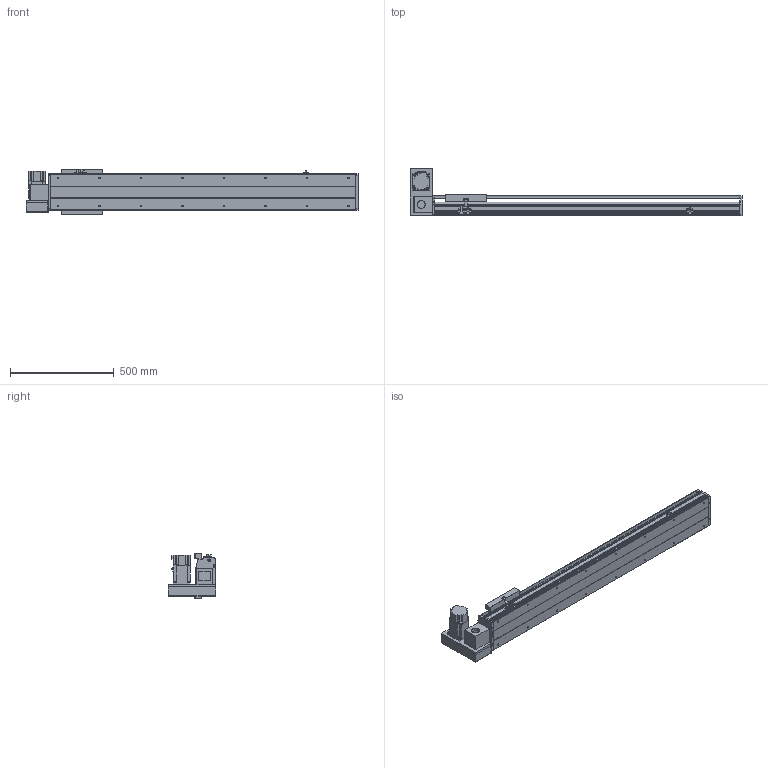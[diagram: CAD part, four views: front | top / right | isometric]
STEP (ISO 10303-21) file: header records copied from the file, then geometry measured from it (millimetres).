
FILE_DESCRIPTION(/* description */ ('STEP AP214'),/* implementation_level */ '2;1');
FILE_NAME(/* name */ 'PBS200-P40-S1100-LU-T75-C1-N(0)',/* time_stamp */ '2022-06-11T08:59:48+02:00',/* author */ ('License CC BY-ND 4.0'),/* organization */ ('CADENAS'),/* preprocessor_version */ 'ST-DEVELOPER v18.102',/* originating_system */ 'PARTsolutions',/* authorisation */ ' ');
FILE_SCHEMA (('AUTOMOTIVE_DESIGN {1 0 10303 214 3 1 1}'));
Length unit declared in the file: millimetre
Products named in the file (7): PBS200-P40-S1100-LU-T75-C1-N(0); PBS200_sensor; PBS200_plant; PBS200_sliser; T75-p1; PBS200T-LU_motors; PBS200-S1100()_body
Assembly tree (8 placements, depth 2):
  PBS200-P40-S1100-LU-T75-C1-N(0)
    PBS200_sensor  x3
    PBS200_plant
    PBS200_sliser
    T75-p1
    PBS200T-LU_motors
    PBS200-S1100()_body
Bounding box: 1600 x 231 x 221 mm (x, y, z)
Volume: 11862108.7 mm3; surface area: 1917780.5 mm2
Topology: 8 solids, 8 shells, 920 faces, 2374 edges, 1548 vertices
Faces by surface type: plane 574, cylinder 298, cone 48
Full cylindrical faces by diameter (mm): 2.459 x6, 3.242 x4, 4.5 x6, 4.917 x4, 5 x6, 6 x7, 6.6 x8, 6.647 x20, 8 x6, 10 x4, 12 x8, 38 x2, 40 x1, 70 x1
Entity records: 24581 total; most frequent: DIRECTION 4327, CARTESIAN_POINT 4192, ORIENTED_EDGE 3982, EDGE_CURVE 1991, AXIS2_PLACEMENT_3D 1507, VERTEX_POINT 1372, LINE 1313, VECTOR 1313
